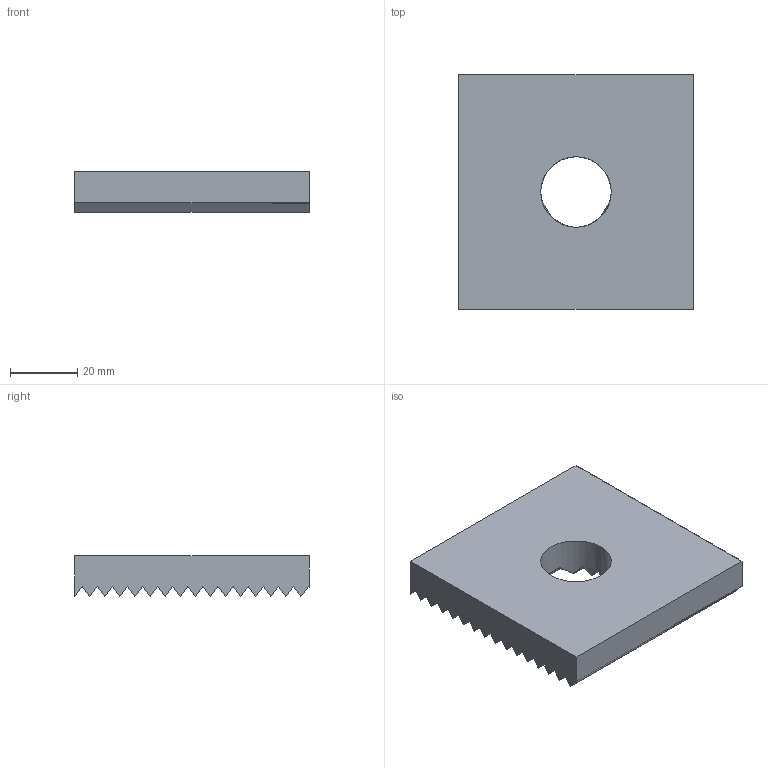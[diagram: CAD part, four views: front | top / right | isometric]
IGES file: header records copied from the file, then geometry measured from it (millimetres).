
Start section: 3D InterOp IGES (Version 26 1 0), Spatial Corp. Copyright (c) 1999-2007.
Global section: file name: CPA7012T21.igs; native system: Spatial Corp.; preprocessor: 3D InterOp GENERIC/IGES 3.0; author: Noname; organization: Noname; date: 20181022.154059; units: millimetre
Bounding box: 70 x 70 x 12 mm (x, y, z)
Surface area: 15798.6 mm2 (no closed solid volume)
Topology: 0 solids, 0 shells, 48 faces, 282 edges, 282 vertices
Faces by surface type: extrusion 46, revolution 2
